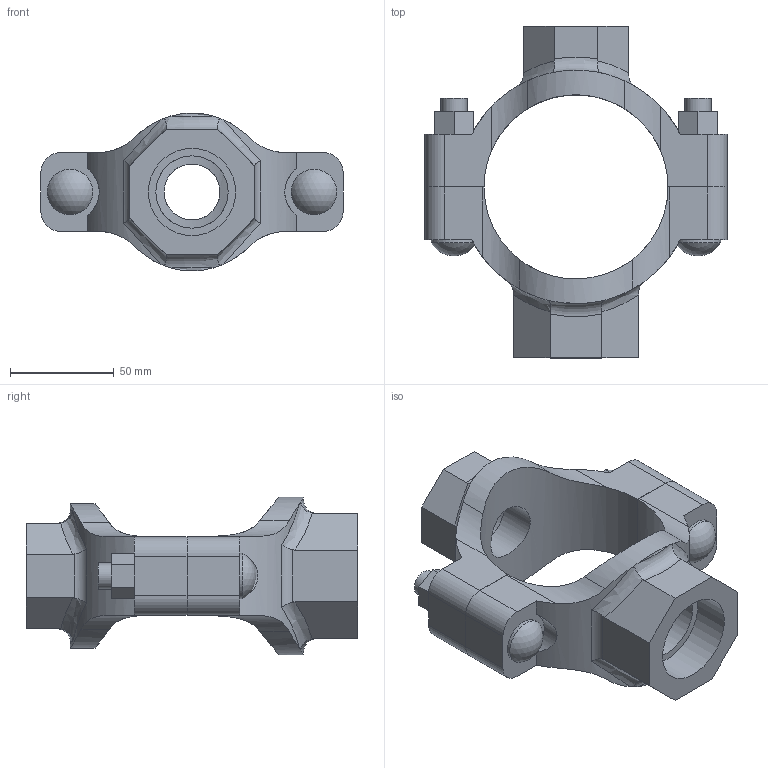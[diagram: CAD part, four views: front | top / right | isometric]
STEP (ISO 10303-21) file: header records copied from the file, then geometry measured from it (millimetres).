
FILE_DESCRIPTION(/* description */ ('VIC MECH-T BRANCH OUTLET CROSS STYLE 920N (THD)','CAx-IF Rec.Pracs.---Representation and Presentation of Product Manufacturing Information (PMI)---4.0---2014-10-13'),/* implementation_level */ '2;1');
FILE_NAME(/* name */ 'C:\Users\Vjadhav\AppData\Roaming\Autodesk\ApplicationPlugins\Back Up\Victaulic_IPS_Mechanical-Cross Outlet_Style 920N (FPT)\Victaulic_IPS_Mechanical-Cross Outlet_03.0x01.0x01.25 (80x25x32).stp',/* time_stamp */ '2020-08-06T18:57:30+05:00',/* author */ ('Vjadhav'),/* organization */ ('Victaulic'),/* preprocessor_version */ 'ST-DEVELOPER v17.2',/* originating_system */ 'Autodesk Inventor 2019',/* authorisation */ '');
FILE_SCHEMA (('AP242_MANAGED_MODEL_BASED_3D_ENGINEERING_MIM_LF { 1 0 10303 442 1 1 4 }'));
Length unit declared in the file: inch
Products named in the file (3): 920NT-03.0x01.0x01.25; 920NT-03.0x01.0; 920NT-03.0x01.25
Assembly tree (2 placements, depth 2):
  920NT-03.0x01.0x01.25
    920NT-03.0x01.0
    920NT-03.0x01.25
Bounding box: 146.05 x 160.27 x 76.2 mm (x, y, z)
Volume: 319913.1 mm3; surface area: 76384.5 mm2
Topology: 2 solids, 2 shells, 135 faces, 362 edges, 244 vertices
Faces by surface type: plane 68, cylinder 53, bspline 8, torus 4, sphere 2
Full cylindrical faces by diameter (mm): 12.7 x4, 21.982 x2, 26.987 x1, 33.401 x1, 34.925 x1, 42.164 x1
Entity records: 5271 total; most frequent: CARTESIAN_POINT 1680, ORIENTED_EDGE 724, DIRECTION 654, EDGE_CURVE 362, VERTEX_POINT 244, AXIS2_PLACEMENT_3D 234, LINE 186, VECTOR 186
